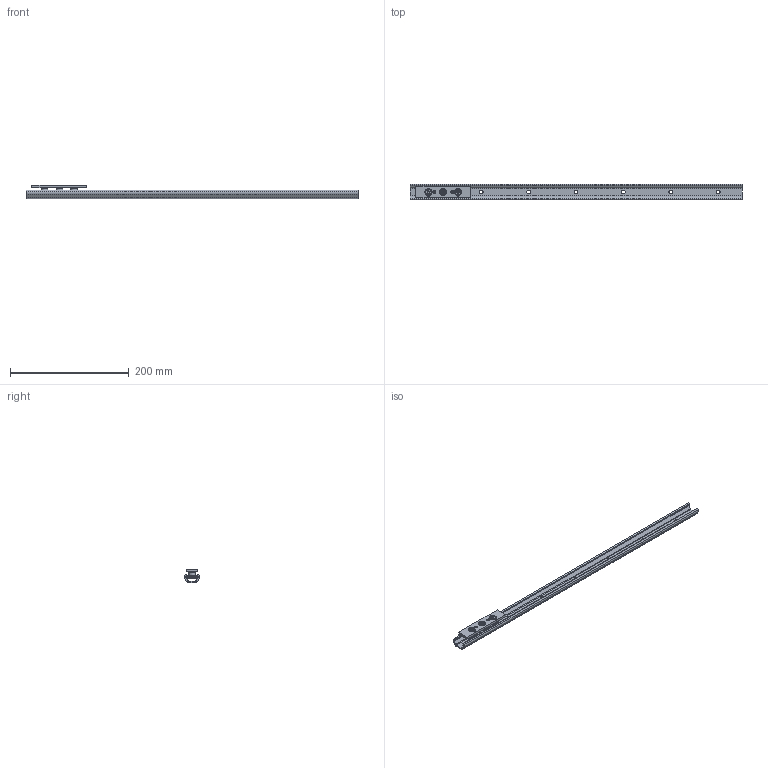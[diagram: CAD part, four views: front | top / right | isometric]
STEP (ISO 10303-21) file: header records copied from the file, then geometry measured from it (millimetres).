
FILE_DESCRIPTION( ( 'STEP AP214' ), '1' );
FILE_NAME( 'p:/temp/worker_19/temp/exporttempdir_83944_349_Ujd64/format_1/TEN26-0560-CEN26-92.stp', '2020-05-08T18:37:09', ( 'License CC BY-ND 4.0' ), ( 'CADENAS' ), ' ', 'PARTsolutions', ' ' );
FILE_SCHEMA( ( 'AUTOMOTIVE_DESIGN { 1 0 10303 214 1 1 1 1 }' ) );
Length unit declared in the file: millimetre
Products named in the file (6): TEN26-0560-CEN26-92; _TEN 26-560; _CEN26-92_1; _RLN26(11.2_M5); _RLA26(11.2_M5); _LAN-26
Assembly tree (8 placements, depth 2):
  TEN26-0560-CEN26-92
    _TEN 26-560
    _CEN26-92_1
    _RLN26(11.2_M5)  x2
    _RLA26(11.2_M5)
    _LAN-26  x3
Bounding box: 560 x 26 x 22 mm (x, y, z)
Volume: 71506.2 mm3; surface area: 59019 mm2
Topology: 8 solids, 8 shells, 240 faces, 522 edges, 325 vertices
Faces by surface type: plane 131, cylinder 76, cone 24, bspline 9
Full cylindrical faces by diameter (mm): 2.5 x2, 4.134 x5, 4.5 x3, 5 x6, 6.5 x7, 9.3 x3, 11.2 x6, 11.6 x6, 15.7 x6, 16.7 x6
Entity records: 5552 total; most frequent: CARTESIAN_POINT 820, DIRECTION 754, ORIENTED_EDGE 562, AXIS2_PLACEMENT_3D 313, EDGE_CURVE 281, EDGE_LOOP 260, VERTEX_POINT 211, FACE_OUTER_BOUND 198
